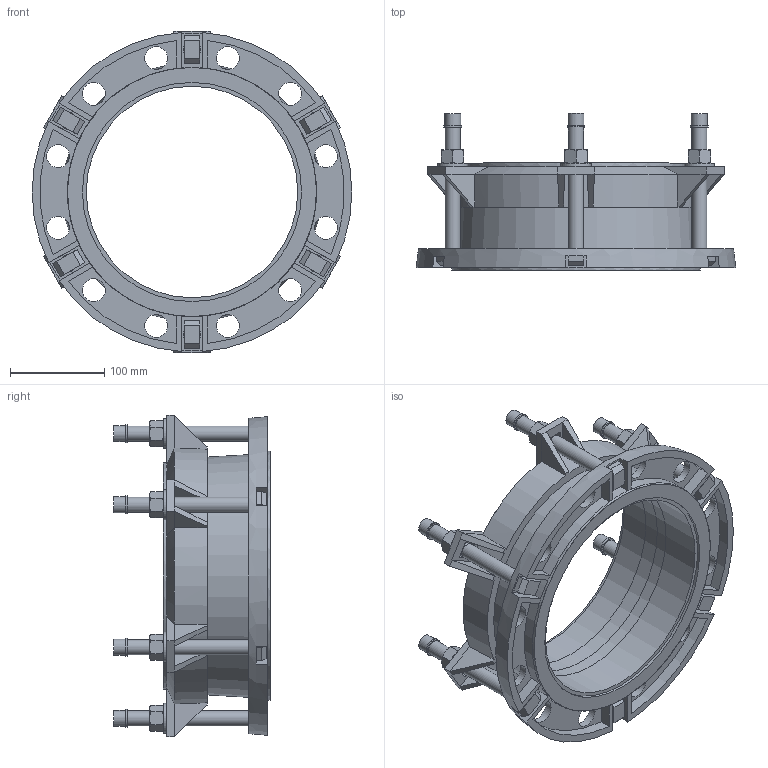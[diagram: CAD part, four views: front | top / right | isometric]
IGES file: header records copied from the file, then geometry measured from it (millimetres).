
Start section: SolidWorks IGES file using analytic representation for surfaces
Global section: file name: \\avksan2\techshare\PBM outline export from Enovia\O_623_10_DN200-225mm_X1XXXXX_REV01.igs; native system: SolidWorks 2019; preprocessor: SolidWorks 2019; author: pbm; date: 200417.110336; units: millimetre
Bounding box: 340 x 166.5 x 342 mm (x, y, z)
Surface area: 406681.6 mm2 (no closed solid volume)
Topology: 0 solids, 0 shells, 507 faces, 2443 edges, 2373 vertices
Faces by surface type: bspline 301, revolution 206
